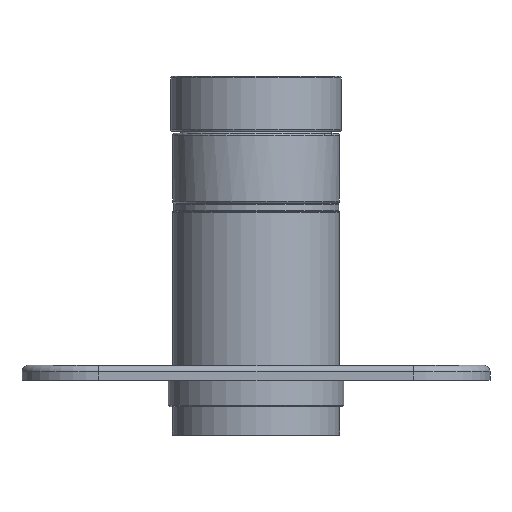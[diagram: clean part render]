
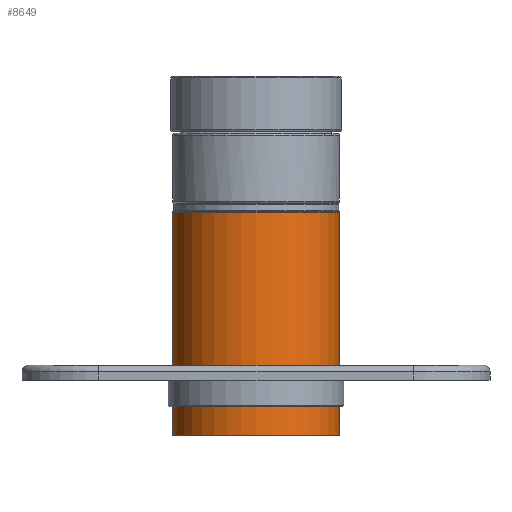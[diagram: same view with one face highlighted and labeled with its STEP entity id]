
A CAD part, left-side view. The second image highlights one B-rep face of the part: STEP entity #8649.
In plain terms, the highlighted cylindrical face has radius 25 mm (diameter 50 mm), a full revolution.
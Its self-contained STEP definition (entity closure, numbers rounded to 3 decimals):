
#1606=B_SPLINE_CURVE_WITH_KNOTS('',3,(#14633,#14634,#14635,#14636,#14637,
#14638,#14639,#14640,#14641,#14642,#14643,#14644,#14645,#14646,#14647,#14648,
#14649,#14650),.UNSPECIFIED.,.F.,.F.,(4,2,2,2,2,2,2,2,4),(0.226,
0.283,0.339,0.396,0.452,
0.509,0.565,0.622,0.678),
 .UNSPECIFIED.);
#1607=B_SPLINE_CURVE_WITH_KNOTS('',3,(#14651,#14652,#14653,#14654,#14655,
#14656,#14657,#14658,#14659,#14660,#14661,#14662,#14663,#14664,#14665,#14666,
#14667,#14668,#14669),.UNSPECIFIED.,.F.,.F.,(4,2,2,2,3,2,2,2,4),(0.678,
0.735,0.791,0.848,0.904,
0.961,1.017,1.074,1.13),
 .UNSPECIFIED.);
#2221=CYLINDRICAL_SURFACE('',#9463,25.);
#2327=FACE_BOUND('',#3036,.T.);
#2328=FACE_BOUND('',#3037,.T.);
#2463=FACE_OUTER_BOUND('',#3035,.T.);
#3035=EDGE_LOOP('',(#6127));
#3036=EDGE_LOOP('',(#6128,#6129));
#3037=EDGE_LOOP('',(#6130));
#3703=CIRCLE('',#9459,25.);
#3706=CIRCLE('',#9464,25.);
#3996=VERTEX_POINT('',#14631);
#3997=VERTEX_POINT('',#14632);
#4001=VERTEX_POINT('',#14711);
#4004=VERTEX_POINT('',#14719);
#4834=EDGE_CURVE('',#3996,#3997,#1606,.T.);
#4835=EDGE_CURVE('',#3997,#3996,#1607,.T.);
#4839=EDGE_CURVE('',#4001,#4001,#3703,.T.);
#4842=EDGE_CURVE('',#4004,#4004,#3706,.T.);
#6127=ORIENTED_EDGE('',*,*,#4842,.F.);
#6128=ORIENTED_EDGE('',*,*,#4834,.T.);
#6129=ORIENTED_EDGE('',*,*,#4835,.T.);
#6130=ORIENTED_EDGE('',*,*,#4839,.F.);
#8649=ADVANCED_FACE('',(#2463,#2327,#2328),#2221,.T.);
#9459=AXIS2_PLACEMENT_3D('',#14712,#10297,#10298);
#9463=AXIS2_PLACEMENT_3D('',#14718,#10305,#10306);
#9464=AXIS2_PLACEMENT_3D('',#14720,#10307,#10308);
#10297=DIRECTION('center_axis',(0.,0.,-1.));
#10298=DIRECTION('ref_axis',(-1.,0.,0.));
#10305=DIRECTION('center_axis',(0.,0.,1.));
#10306=DIRECTION('ref_axis',(-1.,0.,0.));
#10307=DIRECTION('center_axis',(0.,0.,1.));
#10308=DIRECTION('ref_axis',(-1.,0.,0.));
#14631=CARTESIAN_POINT('',(25.,0.,61.5));
#14632=CARTESIAN_POINT('',(25.,0.,64.5));
#14633=CARTESIAN_POINT('Ctrl Pts',(25.,0.,61.5));
#14634=CARTESIAN_POINT('Ctrl Pts',(25.,-0.188,61.5));
#14635=CARTESIAN_POINT('Ctrl Pts',(24.998,-0.389,
61.538));
#14636=CARTESIAN_POINT('Ctrl Pts',(24.989,-0.759,61.691));
#14637=CARTESIAN_POINT('Ctrl Pts',(24.983,-0.928,
61.806));
#14638=CARTESIAN_POINT('Ctrl Pts',(24.972,-1.194,62.072));
#14639=CARTESIAN_POINT('Ctrl Pts',(24.966,-1.309,62.241));
#14640=CARTESIAN_POINT('Ctrl Pts',(24.957,-1.462,62.611));
#14641=CARTESIAN_POINT('Ctrl Pts',(24.955,-1.5,62.812));
#14642=CARTESIAN_POINT('Ctrl Pts',(24.955,-1.5,63.188));
#14643=CARTESIAN_POINT('Ctrl Pts',(24.957,-1.462,63.389));
#14644=CARTESIAN_POINT('Ctrl Pts',(24.966,-1.309,63.759));
#14645=CARTESIAN_POINT('Ctrl Pts',(24.972,-1.194,63.928));
#14646=CARTESIAN_POINT('Ctrl Pts',(24.983,-0.928,
64.194));
#14647=CARTESIAN_POINT('Ctrl Pts',(24.989,-0.759,64.309));
#14648=CARTESIAN_POINT('Ctrl Pts',(24.998,-0.389,64.462));
#14649=CARTESIAN_POINT('Ctrl Pts',(25.,-0.188,64.5));
#14650=CARTESIAN_POINT('Ctrl Pts',(25.,0.,64.5));
#14651=CARTESIAN_POINT('Ctrl Pts',(25.,0.,64.5));
#14652=CARTESIAN_POINT('Ctrl Pts',(25.,0.188,64.5));
#14653=CARTESIAN_POINT('Ctrl Pts',(24.998,0.389,64.462));
#14654=CARTESIAN_POINT('Ctrl Pts',(24.989,0.759,64.309));
#14655=CARTESIAN_POINT('Ctrl Pts',(24.983,0.928,64.194));
#14656=CARTESIAN_POINT('Ctrl Pts',(24.972,1.194,63.928));
#14657=CARTESIAN_POINT('Ctrl Pts',(24.966,1.309,63.759));
#14658=CARTESIAN_POINT('Ctrl Pts',(24.957,1.462,63.389));
#14659=CARTESIAN_POINT('Ctrl Pts',(24.955,1.5,63.188));
#14660=CARTESIAN_POINT('Ctrl Pts',(24.955,1.5,63.));
#14661=CARTESIAN_POINT('Ctrl Pts',(24.955,1.5,62.812));
#14662=CARTESIAN_POINT('Ctrl Pts',(24.957,1.462,62.611));
#14663=CARTESIAN_POINT('Ctrl Pts',(24.966,1.309,62.241));
#14664=CARTESIAN_POINT('Ctrl Pts',(24.972,1.194,62.072));
#14665=CARTESIAN_POINT('Ctrl Pts',(24.983,0.928,61.806));
#14666=CARTESIAN_POINT('Ctrl Pts',(24.989,0.759,61.691));
#14667=CARTESIAN_POINT('Ctrl Pts',(24.998,0.389,61.538));
#14668=CARTESIAN_POINT('Ctrl Pts',(25.,0.188,61.5));
#14669=CARTESIAN_POINT('Ctrl Pts',(25.,0.,61.5));
#14711=CARTESIAN_POINT('',(25.,0.,0.2));
#14712=CARTESIAN_POINT('Origin',(0.,0.,0.2));
#14718=CARTESIAN_POINT('Origin',(0.,0.,0.));
#14719=CARTESIAN_POINT('',(25.,0.,66.8));
#14720=CARTESIAN_POINT('Origin',(0.,0.,66.8));
